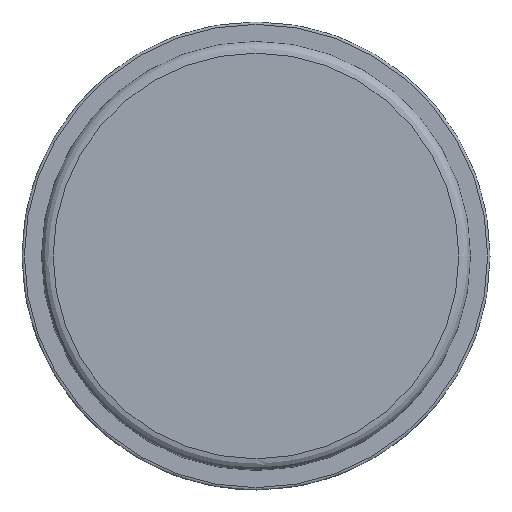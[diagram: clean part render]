
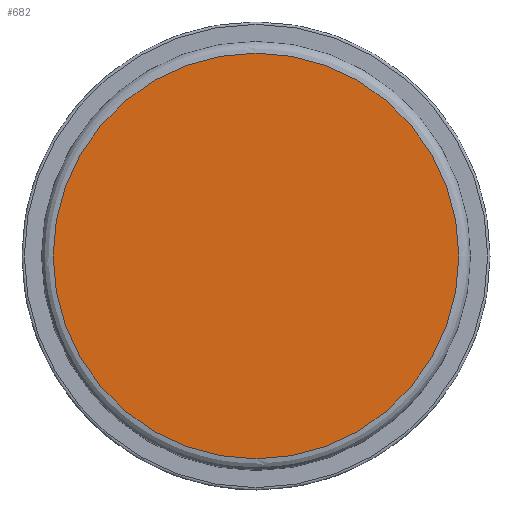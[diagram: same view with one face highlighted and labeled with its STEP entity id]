
A CAD part, left-side view. The second image highlights one B-rep face of the part: STEP entity #682.
In plain terms, the highlighted planar face has unit normal (-1, 0, 0).
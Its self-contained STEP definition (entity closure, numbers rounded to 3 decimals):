
#657=CARTESIAN_POINT('',(-537.136,-422.109,-66.));
#658=DIRECTION('',(-1.0,0.0,0.0));
#659=DIRECTION('',(0.0,-1.0,0.0));
#660=AXIS2_PLACEMENT_3D('',#657,#658,#659);
#661=PLANE('',#660);
#662=CARTESIAN_POINT('',(-537.136,-540.109,0.0));
#663=VERTEX_POINT('',#662);
#664=CARTESIAN_POINT('',(-537.136,-436.109,0.0));
#665=VERTEX_POINT('',#664);
#666=CARTESIAN_POINT('',(-537.136,-488.109,0.0));
#667=DIRECTION('',(-1.0,0.0,0.0));
#668=DIRECTION('',(0.0,-1.0,0.0));
#669=AXIS2_PLACEMENT_3D('',#666,#667,#668);
#670=CIRCLE('',#669,52.0);
#671=EDGE_CURVE('',#663,#665,#670,.T.);
#672=ORIENTED_EDGE('',*,*,#671,.T.);
#673=CARTESIAN_POINT('',(-537.136,-488.109,0.0));
#674=DIRECTION('',(-1.0,0.0,0.0));
#675=DIRECTION('',(0.0,-1.0,0.0));
#676=AXIS2_PLACEMENT_3D('',#673,#674,#675);
#677=CIRCLE('',#676,52.0);
#678=EDGE_CURVE('',#665,#663,#677,.T.);
#679=ORIENTED_EDGE('',*,*,#678,.T.);
#680=EDGE_LOOP('',(#672,#679));
#681=FACE_OUTER_BOUND('',#680,.T.);
#682=ADVANCED_FACE('',(#681),#661,.T.);
